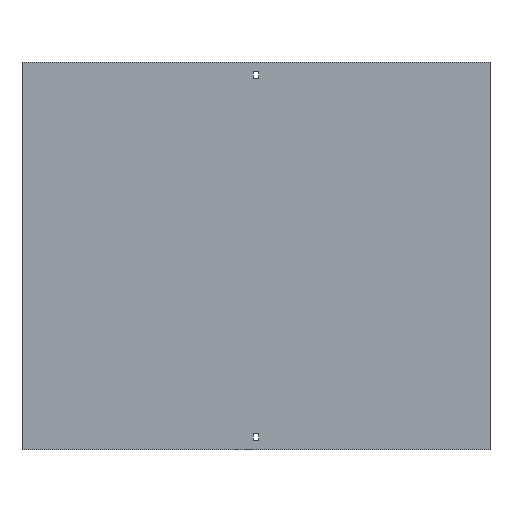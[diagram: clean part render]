
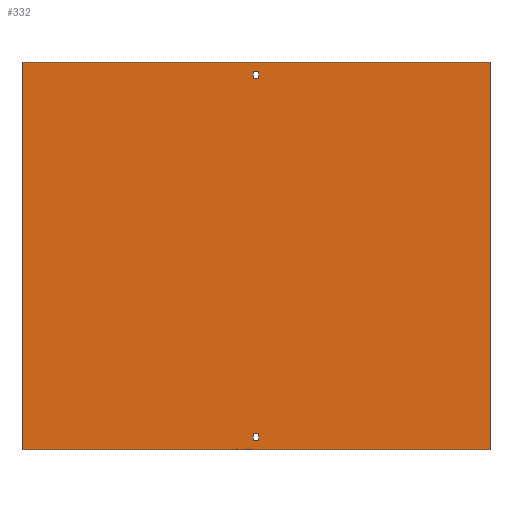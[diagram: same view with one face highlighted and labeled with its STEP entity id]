
A CAD part, front view. The second image highlights one B-rep face of the part: STEP entity #332.
In plain terms, the highlighted planar face has unit normal (0, -1, 0).
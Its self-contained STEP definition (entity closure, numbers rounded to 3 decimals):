
#38 = VERTEX_POINT ( 'NONE', #847 ) ;
#54 = VERTEX_POINT ( 'NONE', #458 ) ;
#86 = CARTESIAN_POINT ( 'NONE',  ( -3.25, 0., 229. ) ) ;
#115 = VERTEX_POINT ( 'NONE', #1493 ) ;
#126 = VERTEX_POINT ( 'NONE', #501 ) ;
#141 = DIRECTION ( 'NONE',  ( 1., 0., 0. ) ) ;
#172 = FACE_BOUND ( 'NONE', #1179, .T. ) ;
#181 = VECTOR ( 'NONE', #1208, 1000. ) ;
#188 = CARTESIAN_POINT ( 'NONE',  ( -302., 0., -250. ) ) ;
#197 = DIRECTION ( 'NONE',  ( 0., 0., -1. ) ) ;
#200 = CARTESIAN_POINT ( 'NONE',  ( -3.25, 0., 238. ) ) ;
#211 = VECTOR ( 'NONE', #1465, 1000. ) ;
#239 = CARTESIAN_POINT ( 'NONE',  ( -302., 0., 250. ) ) ;
#240 = VECTOR ( 'NONE', #1096, 1000. ) ;
#267 = CARTESIAN_POINT ( 'NONE',  ( -3.25, 0., -238. ) ) ;
#272 = VERTEX_POINT ( 'NONE', #573 ) ;
#278 = CARTESIAN_POINT ( 'NONE',  ( -3.25, 0., -238. ) ) ;
#279 = EDGE_LOOP ( 'NONE', ( #383, #1101, #825, #879 ) ) ;
#295 = FACE_BOUND ( 'NONE', #279, .T. ) ;
#304 = CARTESIAN_POINT ( 'NONE',  ( -3.25, 0., 238. ) ) ;
#332 = ADVANCED_FACE ( 'NONE', ( #1457, #172, #295 ), #1330, .F. ) ;
#344 = VERTEX_POINT ( 'NONE', #465 ) ;
#383 = ORIENTED_EDGE ( 'NONE', *, *, #435, .T. ) ;
#426 = CARTESIAN_POINT ( 'NONE',  ( 3.25, 0., -238. ) ) ;
#435 = EDGE_CURVE ( 'NONE', #663, #272, #845, .T. ) ;
#458 = CARTESIAN_POINT ( 'NONE',  ( 3.25, 0., -229. ) ) ;
#462 = DIRECTION ( 'NONE',  ( 0., 0., -1. ) ) ;
#465 = CARTESIAN_POINT ( 'NONE',  ( 302., 0., -250. ) ) ;
#469 = CARTESIAN_POINT ( 'NONE',  ( 302., 0., 250. ) ) ;
#477 = DIRECTION ( 'NONE',  ( 1., 0., 0. ) ) ;
#501 = CARTESIAN_POINT ( 'NONE',  ( -3.25, 0., 229. ) ) ;
#518 = EDGE_CURVE ( 'NONE', #1287, #1155, #1008, .T. ) ;
#539 = ORIENTED_EDGE ( 'NONE', *, *, #1017, .F. ) ;
#548 = EDGE_CURVE ( 'NONE', #912, #663, #766, .T. ) ;
#555 = DIRECTION ( 'NONE',  ( -1., 0., 0. ) ) ;
#563 = VECTOR ( 'NONE', #141, 1000. ) ;
#568 = EDGE_CURVE ( 'NONE', #1562, #126, #1198, .T. ) ;
#573 = CARTESIAN_POINT ( 'NONE',  ( -3.25, 0., -229. ) ) ;
#578 = EDGE_CURVE ( 'NONE', #54, #912, #1059, .T. ) ;
#603 = CARTESIAN_POINT ( 'NONE',  ( 302., 0., 250. ) ) ;
#663 = VERTEX_POINT ( 'NONE', #278 ) ;
#685 = CARTESIAN_POINT ( 'NONE',  ( -302., 0., 250. ) ) ;
#705 = EDGE_CURVE ( 'NONE', #1155, #344, #1627, .T. ) ;
#706 = ORIENTED_EDGE ( 'NONE', *, *, #518, .F. ) ;
#726 = ORIENTED_EDGE ( 'NONE', *, *, #1142, .T. ) ;
#766 = LINE ( 'NONE', #267, #944 ) ;
#772 = CARTESIAN_POINT ( 'NONE',  ( 3.25, 0., 238. ) ) ;
#787 = VERTEX_POINT ( 'NONE', #188 ) ;
#788 = DIRECTION ( 'NONE',  ( -1., 0., 0. ) ) ;
#801 = ORIENTED_EDGE ( 'NONE', *, *, #882, .F. ) ;
#810 = EDGE_CURVE ( 'NONE', #272, #54, #959, .T. ) ;
#817 = VECTOR ( 'NONE', #197, 1000. ) ;
#825 = ORIENTED_EDGE ( 'NONE', *, *, #578, .T. ) ;
#830 = EDGE_CURVE ( 'NONE', #126, #115, #843, .T. ) ;
#832 = ORIENTED_EDGE ( 'NONE', *, *, #830, .F. ) ;
#843 = LINE ( 'NONE', #86, #1512 ) ;
#845 = LINE ( 'NONE', #991, #898 ) ;
#847 = CARTESIAN_POINT ( 'NONE',  ( 3.25, 0., 238. ) ) ;
#858 = LINE ( 'NONE', #988, #1434 ) ;
#879 = ORIENTED_EDGE ( 'NONE', *, *, #548, .T. ) ;
#882 = EDGE_CURVE ( 'NONE', #115, #38, #1150, .T. ) ;
#898 = VECTOR ( 'NONE', #1610, 1000. ) ;
#899 = DIRECTION ( 'NONE',  ( 0., 0., 1. ) ) ;
#912 = VERTEX_POINT ( 'NONE', #1131 ) ;
#944 = VECTOR ( 'NONE', #788, 1000. ) ;
#959 = LINE ( 'NONE', #1228, #240 ) ;
#965 = ORIENTED_EDGE ( 'NONE', *, *, #1266, .T. ) ;
#975 = AXIS2_PLACEMENT_3D ( 'NONE', #685, #1083, #555 ) ;
#981 = ORIENTED_EDGE ( 'NONE', *, *, #568, .F. ) ;
#988 = CARTESIAN_POINT ( 'NONE',  ( -302., 0., 250. ) ) ;
#991 = CARTESIAN_POINT ( 'NONE',  ( -3.25, 0., -238. ) ) ;
#1008 = LINE ( 'NONE', #1036, #1103 ) ;
#1017 = EDGE_CURVE ( 'NONE', #38, #1562, #1178, .T. ) ;
#1021 = EDGE_LOOP ( 'NONE', ( #965, #1076, #706, #726 ) ) ;
#1036 = CARTESIAN_POINT ( 'NONE',  ( -302., 0., 250. ) ) ;
#1059 = LINE ( 'NONE', #426, #211 ) ;
#1076 = ORIENTED_EDGE ( 'NONE', *, *, #705, .F. ) ;
#1083 = DIRECTION ( 'NONE',  ( 0., 1., 0. ) ) ;
#1096 = DIRECTION ( 'NONE',  ( 1., 0., 0. ) ) ;
#1101 = ORIENTED_EDGE ( 'NONE', *, *, #810, .T. ) ;
#1103 = VECTOR ( 'NONE', #1406, 1000. ) ;
#1111 = VECTOR ( 'NONE', #1447, 1000. ) ;
#1131 = CARTESIAN_POINT ( 'NONE',  ( 3.25, 0., -238. ) ) ;
#1142 = EDGE_CURVE ( 'NONE', #1287, #787, #858, .T. ) ;
#1150 = LINE ( 'NONE', #772, #1539 ) ;
#1155 = VERTEX_POINT ( 'NONE', #603 ) ;
#1178 = LINE ( 'NONE', #1560, #181 ) ;
#1179 = EDGE_LOOP ( 'NONE', ( #832, #981, #539, #801 ) ) ;
#1198 = LINE ( 'NONE', #304, #1111 ) ;
#1208 = DIRECTION ( 'NONE',  ( -1., 0., 0. ) ) ;
#1228 = CARTESIAN_POINT ( 'NONE',  ( -3.25, 0., -229. ) ) ;
#1266 = EDGE_CURVE ( 'NONE', #787, #344, #1643, .T. ) ;
#1287 = VERTEX_POINT ( 'NONE', #239 ) ;
#1330 = PLANE ( 'NONE',  #975 ) ;
#1392 = CARTESIAN_POINT ( 'NONE',  ( -302., 0., -250. ) ) ;
#1406 = DIRECTION ( 'NONE',  ( 1., 0., 0. ) ) ;
#1434 = VECTOR ( 'NONE', #462, 1000. ) ;
#1447 = DIRECTION ( 'NONE',  ( 0., 0., -1. ) ) ;
#1457 = FACE_OUTER_BOUND ( 'NONE', #1021, .T. ) ;
#1465 = DIRECTION ( 'NONE',  ( 0., 0., -1. ) ) ;
#1493 = CARTESIAN_POINT ( 'NONE',  ( 3.25, 0., 229. ) ) ;
#1512 = VECTOR ( 'NONE', #477, 1000. ) ;
#1539 = VECTOR ( 'NONE', #899, 1000. ) ;
#1560 = CARTESIAN_POINT ( 'NONE',  ( -3.25, 0., 238. ) ) ;
#1562 = VERTEX_POINT ( 'NONE', #200 ) ;
#1610 = DIRECTION ( 'NONE',  ( 0., 0., 1. ) ) ;
#1627 = LINE ( 'NONE', #469, #817 ) ;
#1643 = LINE ( 'NONE', #1392, #563 ) ;
